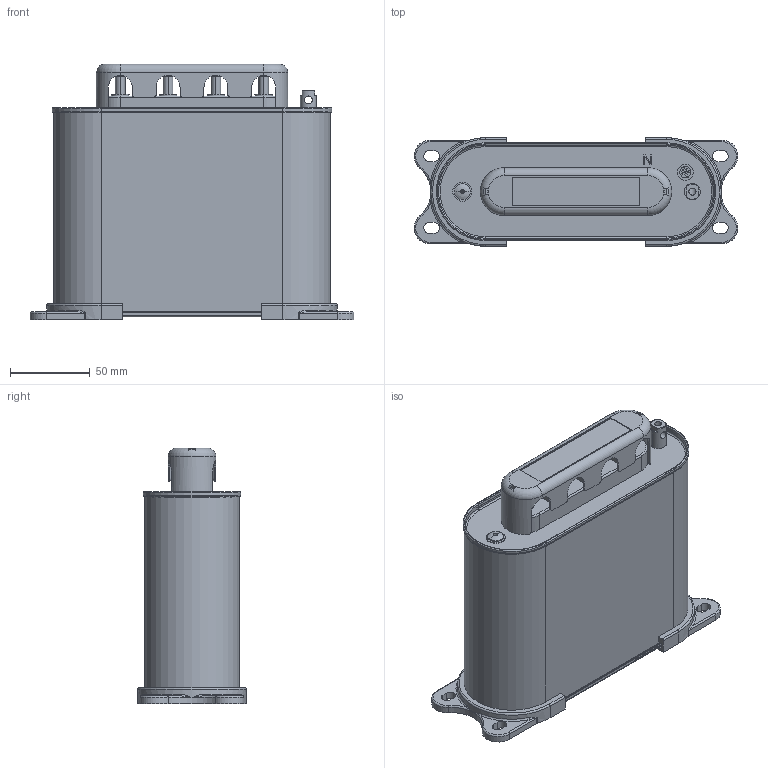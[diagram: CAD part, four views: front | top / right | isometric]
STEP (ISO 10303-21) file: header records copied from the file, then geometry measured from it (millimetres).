
FILE_DESCRIPTION((''),'2;1');
FILE_NAME('2701001700_SW0001','2025-05-06T',('hua.zhang'),(''),'PRO/ENGINEER BY PARAMETRIC TECHNOLOGY CORPORATION, 2017170','PRO/ENGINEER BY PARAMETRIC TECHNOLOGY CORPORATION, 2017170','');
FILE_SCHEMA(('CONFIG_CONTROL_DESIGN'));
Length unit declared in the file: millimetre
Products named in the file (1): 2701001700_SW0001
Bounding box: 203 x 68 x 160.28 mm (x, y, z)
Volume: 1263130.7 mm3; surface area: 117112.7 mm2
Topology: 1 solids, 4 shells, 598 faces, 1556 edges, 966 vertices
Faces by surface type: plane 265, cylinder 214, torus 59, cone 42, bspline 16, sphere 2
Entity records: 21498 total; most frequent: CARTESIAN_POINT 6442, DIRECTION 3246, ORIENTED_EDGE 3112, EDGE_CURVE 1556, AXIS2_PLACEMENT_3D 1166, VERTEX_POINT 966, VECTOR 914, LINE 914
